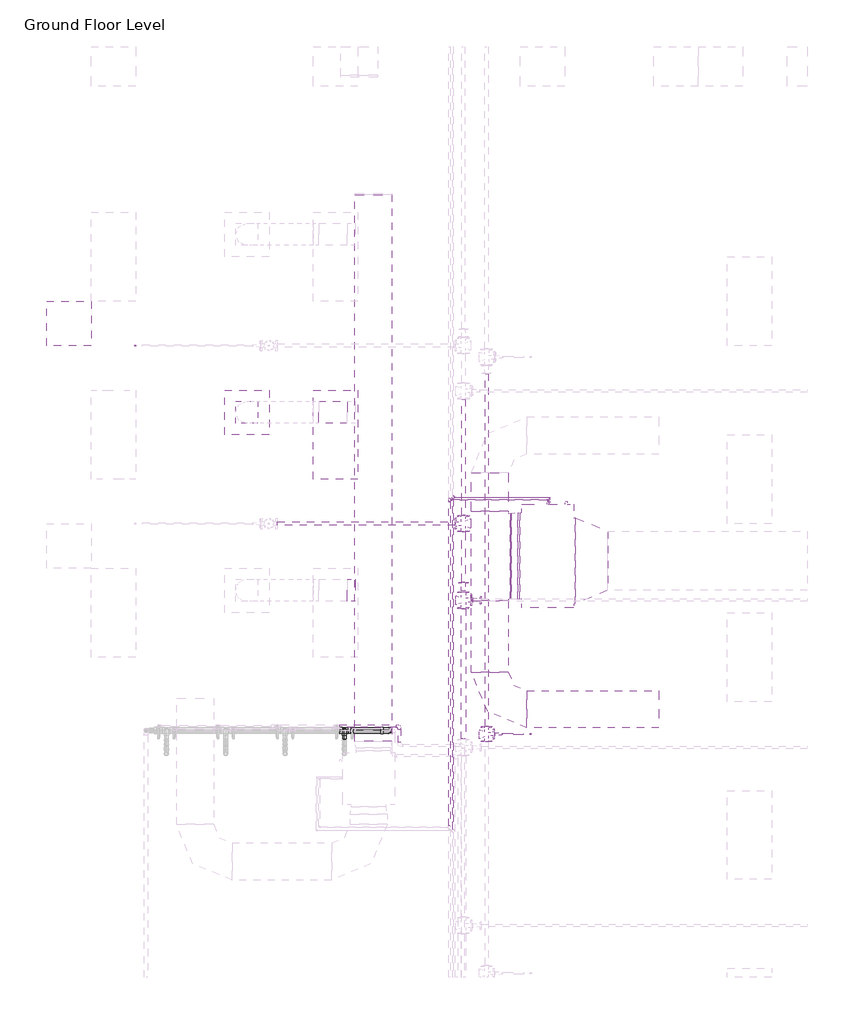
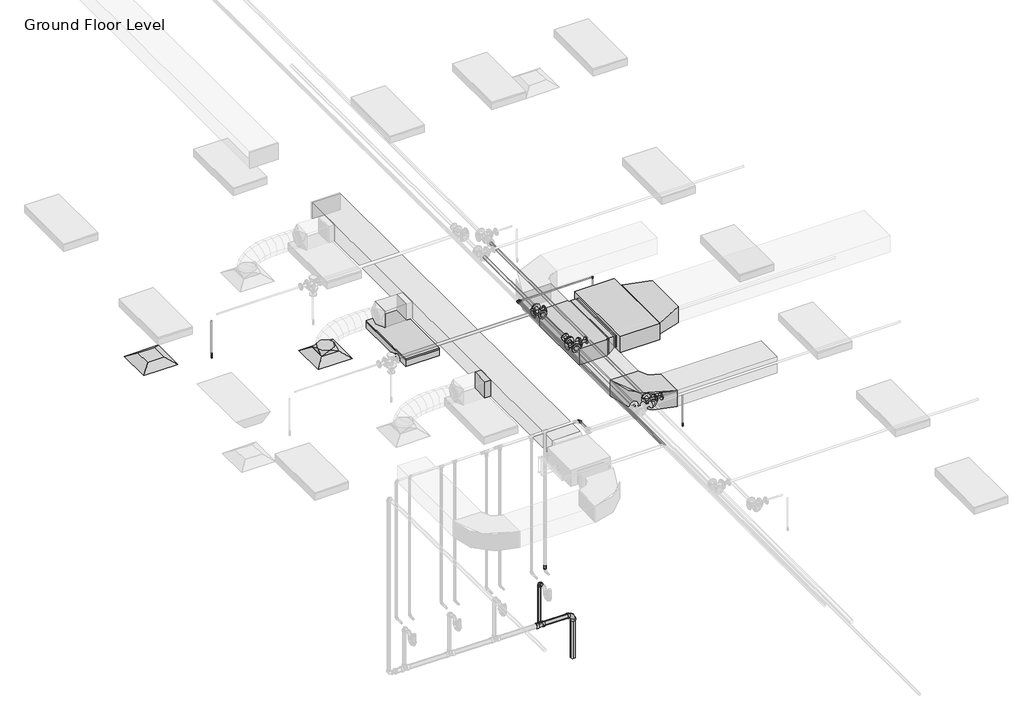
# One storey, part 25 of 74: 22 pipe segments, 21 pipe fittings, 7 duct fittings, 7 duct segments, 2 air terminals, 2 fire suppression terminals, 1 light fixture, 1 proxy.
"""IFC4 building model written with IfcOpenShell, lengths in millimetres."""

from ifc_helpers import new_model, si_unit, point, frame, frame_2d, origin, place, context, project, spatial, polyline, circle_curve, trimmed, segment, composite_curve, outline, extrude, transform, mapped, element, save
from components import m_return_diffuser_600_x_600_face_300_x_300_connection_ff221211, fcu_daikin_iu_5a1bd61d, m_rectangular_elbow_radius_1_w_abe20169, m_rectangular_takeoff_standard_cb0ccb98, m_rectangular_tee_standard_c717c13b, m_rectangular_transition_angle_45_degree_d2868699, m_rectangular_transition_angle_45_degree_3270bfc3, m_rectangular_transition_angle_45_degree_83bbb609, m_rectangular_to_round_transition_angle_45_degree_641efff0, m_sprinkler_dry_pendent_hosted_15_mm_dry_pendent_9bda8e11, m_sprinkler_pendent_15_mm_pendent_06fcbd8e, m_troffer_light_parabolic_rectangular1_0600x1200mm_4_lamp_86473d4a, m_bend_pvc_sch_40_dwv_standard_0eeb11e1, m_bend_pvc_sch_40_dwv_standard_1e7bdcc1, m_elbow_generic_standard_a088f956, m_elbow_generic_standard_2a704253, m_elbow_generic_standard_411ee063, m_elbow_generic_standard_a67d3ed8, m_reducer_flanged_cs_class_150_standard_cc2a7c1d, m_reducer_flanged_cs_class_150_standard_3ab32b2b, m_reducer_flanged_cs_class_150_standard_a7631c35, m_tee_generic_standard_5b2ed4d4, m_tee_generic_standard_5078887e, m_tee_reducing_sanitary_pvc_sch_40_dwv_standard_21d2848c, m_tee_round_base_flanged_cs_class_150_standard_dd767e04, m_tee_round_base_flanged_cs_class_150_standard_9c9133d0, m_tee_round_base_flanged_cs_class_150_standard_ab36f383, m_transition_generic_standard_5f8a9689, m_transition_generic_standard_bdcfe2c1, m_transition_generic_standard_44e35838, m_transition_generic_standard_570aa73b, standard_517a5a8d, standard_c7dcb452

model = new_model("IFC4")

# Units and contexts
model_context = context("Model", 3, world=origin())
ifc_project = project(units=[si_unit("LENGTHUNIT", "METRE", prefix="MILLI")], contexts=[model_context])

# Site, building, storey
site = spatial("IfcSite", under=ifc_project)
building = spatial("IfcBuilding", under=site)
storey = spatial("IfcBuildingStorey", under=building, Name="Ground Floor Level", Elevation=900.0)

# Air terminals
placement = place(None, origin())
m_return_diffuser_600_x_600_face_300_x_300_connection_shape = m_return_diffuser_600_x_600_face_300_x_300_connection_ff221211(model_context)
element("IfcAirTerminal", 1, ObjectType="M_Return Diffuser : 600 x 600 Face 300 x 300 Connection", at=placement, inside=storey, context=model_context, shape_type="MappedRepresentation", body=[
    mapped(m_return_diffuser_600_x_600_face_300_x_300_connection_shape, transform((362.7672395, -18364.7846466, 3650.0), x_axis=(1.0, 0.0, 0.0), y_axis=(0.0, 1.0, 0.0), z_axis=(0.0, 0.0, 1.0))),
])
element("IfcAirTerminal", 2, ObjectType="M_Supply Diffuser : 600 x 600 Face 300 x 300 Connection", at=placement, inside=storey, context=model_context, shape_type="MappedRepresentation", body=[
    mapped(m_return_diffuser_600_x_600_face_300_x_300_connection_shape, transform((2762.7672395, -19564.7846466, 3650.0), x_axis=(1.0, 0.0, 0.0), y_axis=(0.0, 1.0, 0.0), z_axis=(0.0, 0.0, 1.0))),
])

# Proxy
fcu_daikin_iu_shape = fcu_daikin_iu_5a1bd61d(model_context)
element("IfcBuildingElementProxy", 3, Name="FCU-DAIKIN IU : 9kW, 230V/50Hz/1Ph", ObjectType="FCU-DAIKIN IU : 9kW, 230V/50Hz/1Ph", at=placement, inside=storey, context=model_context, shape_type="MappedRepresentation", body=[
    mapped(fcu_daikin_iu_shape, transform((6820.4959647, -21503.0689179, 3984.0882279), x_axis=(0.0, 1.0, 0.0), y_axis=(-1.0, 0.0, 0.0), z_axis=(0.0, 0.0, 1.0))),
])

# Duct fittings
m_rectangular_elbow_radius_1_w_shape = m_rectangular_elbow_radius_1_w_abe20169(model_context)
element("IfcDuctFitting", 4, ObjectType="M_Rectangular Elbow - Radius : 1 W", at=placement, inside=storey, context=model_context, shape_type="MappedRepresentation", body=[
    mapped(m_rectangular_elbow_radius_1_w_shape, transform((6040.9897768, -23568.5689179, 4082.4543707), x_axis=(0.0, -1.0, 0.0), y_axis=(1.0, 0.0, 0.0), z_axis=(0.0, 0.0, 1.0))),
])
m_rectangular_takeoff_standard_shape = m_rectangular_takeoff_standard_cb0ccb98(model_context)
element("IfcDuctFitting", 5, ObjectType="M_Rectangular Takeoff : Standard", at=placement, inside=storey, context=model_context, shape_type="MappedRepresentation", body=[
    mapped(m_rectangular_takeoff_standard_shape, transform((4219.1581832, -21964.7846466, 4057.1519579), x_axis=(-1.0, 0.0, 0.0), y_axis=(0.0, 1.0, 0.0), z_axis=(0.0, 0.0, -1.0))),
])
m_rectangular_tee_standard_shape = m_rectangular_tee_standard_c717c13b(model_context)
element("IfcDuctFitting", 6, ObjectType="M_Rectangular Tee : Standard", at=placement, inside=storey, context=model_context, shape_type="MappedRepresentation", body=[
    mapped(m_rectangular_tee_standard_shape, transform((6040.9973279, -21503.0689179, 4082.4405262), x_axis=(0.0, -1.0, 0.0), y_axis=(-1.0, 0.0, 0.0), z_axis=(0.0, 0.0, -1.0))),
])
m_rectangular_transition_angle_45_degree_shape = m_rectangular_transition_angle_45_degree_d2868699(model_context)
element("IfcDuctFitting", 7, ObjectType="M_Rectangular Transition - Angle : 45 Degree", at=placement, inside=storey, context=model_context, shape_type="MappedRepresentation", body=[
    mapped(m_rectangular_transition_angle_45_degree_shape, transform((7195.8959647, -21566.5689179, 4150.0007279), x_axis=(1.0, 0.0, 0.0), y_axis=(0.0, 1.0, 0.0), z_axis=(0.0, 0.0, 1.0))),
])
m_rectangular_transition_angle_45_degree_2_shape = m_rectangular_transition_angle_45_degree_3270bfc3(model_context)
element("IfcDuctFitting", 8, ObjectType="M_Rectangular Transition - Angle : 45 Degree", at=placement, inside=storey, context=model_context, shape_type="MappedRepresentation", body=[
    mapped(m_rectangular_transition_angle_45_degree_2_shape, transform((6445.0959647, -21503.0689179, 4125.2882279), x_axis=(-1.0, 0.0, 0.0), y_axis=(0.0, -1.0, 0.0), z_axis=(0.0, 0.0, 1.0))),
])
m_rectangular_transition_angle_45_degree_3_shape = m_rectangular_transition_angle_45_degree_83bbb609(model_context)
element("IfcDuctFitting", 9, ObjectType="M_Rectangular Transition - Angle : 45 Degree", at=placement, inside=storey, context=model_context, shape_type="MappedRepresentation", body=[
    mapped(m_rectangular_transition_angle_45_degree_3_shape, transform((6416.9897764, -21503.0689179, 4125.4405264), x_axis=(-1.0, 0.0, 0.0), y_axis=(0.0, -1.0, 0.0), z_axis=(0.0, 0.0, 1.0))),
])
m_rectangular_to_round_transition_angle_45_degree_shape = m_rectangular_to_round_transition_angle_45_degree_641efff0(model_context)
element("IfcDuctFitting", 10, ObjectType="M_Rectangular to Round Transition - Angle : 45 Degree", at=placement, inside=storey, context=model_context, shape_type="MappedRepresentation", body=[
    mapped(m_rectangular_to_round_transition_angle_45_degree_shape, transform((2762.7672395, -19564.7846466, 3751.6), x_axis=(0.0, 0.0, 1.0), y_axis=(-1.0, 0.0, 0.0), z_axis=(0.0, -1.0, 0.0))),
])

# Duct segments
element("IfcDuctSegment", 11, ObjectType="Radius Elbows / Taps", at=placement, inside=storey, context=model_context, shape_type="SweptSolid", body=[
    extrude(outline(polyline([(0.0, -500.0), (0.0, 0.0), (7371.604175, 0.0), (7371.604175, -500.0), (0.0, -500.0)])), frame((4719.1581832, -16631.8629481, 3907.1429453), z_axis=(0.0, 1.6199957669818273e-06, 0.9999999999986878), x_axis=(0.0, -0.9999999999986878, 1.6199957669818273e-06)), (0.0, 0.0, 1.0), 300.0),
])
element("IfcDuctSegment", 12, ObjectType="Radius Elbows / Taps", at=placement, inside=storey, context=model_context, shape_type="SweptSolid", body=[
    extrude(outline(polyline([(6290.9897768, -20897.5689179), (5790.9897768, -20897.5689179), (5790.9897768, -20377.6206315), (6290.9897768, -20377.6206315), (6290.9897768, -20897.5689179)])), frame((0.0, 0.0, 3932.4543707), z_axis=(0.0, 0.0, 1.0), x_axis=(1.0, 0.0, 0.0)), (0.0, 0.0, 1.0), 300.0),
])
element("IfcDuctSegment", 13, ObjectType="Radius Elbows / Taps", at=placement, inside=storey, context=model_context, shape_type="SweptSolid", body=[
    extrude(outline(polyline([(5790.9897768, -22108.5689179), (6290.9897768, -22108.5689179), (6290.9897768, -23068.5689179), (5790.9897768, -23068.5689179), (5790.9897768, -22108.5689179)])), frame((0.0, 0.0, 3932.4543707), z_axis=(0.0, 0.0, 1.0), x_axis=(1.0, 0.0, 0.0)), (0.0, 0.0, 1.0), 300.0),
])
element("IfcDuctSegment", 14, ObjectType="Radius Elbows / Taps", at=placement, inside=storey, context=model_context, shape_type="SweptSolid", body=[
    extrude(outline(polyline([(6540.9897768, -23818.5689179), (6540.9897768, -23318.5689179), (8320.9897766, -23318.5689179), (8320.9897766, -23818.5689179), (6540.9897768, -23818.5689179)])), frame((0.0, 0.0, 3932.4543707), z_axis=(0.0, 0.0, 1.0), x_axis=(1.0, 0.0, 0.0)), (0.0, 0.0, 1.0), 300.0),
])
element("IfcDuctSegment", 15, ObjectType="Radius Elbows / Taps", at=placement, inside=storey, context=model_context, shape_type="SweptSolid", body=[
    extrude(outline(polyline([(6315.9897764, -22083.5689179), (6315.9897764, -20922.5689179), (6330.9897764, -20922.5689179), (6330.9897764, -22083.5689179), (6315.9897764, -22083.5689179)])), frame((0.0, 0.0, 3932.4405264), z_axis=(0.0, 0.0, 1.0), x_axis=(1.0, 0.0, 0.0)), (0.0, 0.0, 1.0), 300.0),
])
element("IfcDuctSegment", 16, ObjectType="Radius Elbows / Taps", at=placement, inside=storey, context=model_context, shape_type="SweptSolid", body=[
    extrude(outline(polyline([(6444.798299, -20922.0689179), (6444.798299, -22084.0689179), (6416.9897764, -22084.0689179), (6416.9897764, -20922.0689179), (6444.798299, -20922.0689179)])), frame((0.0, 0.0, 4018.4405264), z_axis=(0.0, 0.0, 1.0), x_axis=(1.0, 0.0, 0.0)), (0.0, 0.0, 1.0), 214.0),
])
element("IfcDuctSegment", 17, ObjectType="Radius Elbows / Taps", at=placement, inside=storey, context=model_context, shape_type="SweptSolid", body=[
    extrude(outline(polyline([(4117.5581832, -19414.7846466), (4117.5581832, -19714.7846466), (3732.9552689, -19714.7846466), (3732.9552689, -19414.7846466), (4117.5581832, -19414.7846466)])), frame((0.0, 0.0, 3907.1479019), z_axis=(0.0, 0.0, 1.0), x_axis=(1.0, 0.0, 0.0)), (0.0, 0.0, 1.0), 300.0),
])

# Fire suppression terminals
m_sprinkler_dry_pendent_hosted_15_mm_dry_pendent_shape = m_sprinkler_dry_pendent_hosted_15_mm_dry_pendent_9bda8e11(model_context)
element("IfcFireSuppressionTerminal", 18, ObjectType="M_Sprinkler - Dry - Pendent - Hosted : 15 mm Dry Pendent", at=placement, inside=storey, context=model_context, shape_type="MappedRepresentation", body=[
    mapped(m_sprinkler_dry_pendent_hosted_15_mm_dry_pendent_shape, transform((1262.7672395, -18664.7846466, 3650.0), x_axis=(1.0, 0.0, 0.0), y_axis=(0.0, -1.0, 0.0), z_axis=(0.0, 0.0, -1.0))),
])
m_sprinkler_pendent_15_mm_pendent_shape = m_sprinkler_pendent_15_mm_pendent_06fcbd8e(model_context)
element("IfcFireSuppressionTerminal", 19, ObjectType="M_Sprinkler - Pendent : 15 mm Pendent", at=placement, inside=storey, context=model_context, shape_type="MappedRepresentation", body=[
    mapped(m_sprinkler_pendent_15_mm_pendent_shape, transform((6592.5481019, -23903.6779349, 3650.0), x_axis=(1.0, 0.0, 0.0), y_axis=(0.0, 1.0, 0.0), z_axis=(0.0, 0.0, 1.0))),
])

# Light fixture
m_troffer_light_parabolic_rectangular1_0600x1200mm_4_lamp_shape = m_troffer_light_parabolic_rectangular1_0600x1200mm_4_lamp_86473d4a(model_context)
element("IfcLightFixture", 20, ObjectType="M_Troffer Light - Parabolic Rectangular1 : 0600x1200mm(4 Lamp) - 277V 2", at=placement, inside=storey, context=model_context, shape_type="MappedRepresentation", body=[
    mapped(m_troffer_light_parabolic_rectangular1_0600x1200mm_4_lamp_shape, transform((3903.3013074, -19846.081145, 3650.0), x_axis=(0.0, 1.0, 0.0), y_axis=(-1.0, 0.0, 0.0), z_axis=(0.0, 0.0, 1.0))),
])

# Pipe fittings
m_bend_pvc_sch_40_dwv_standard_shape = m_bend_pvc_sch_40_dwv_standard_0eeb11e1(model_context)
element("IfcPipeFitting", 21, ObjectType="M_Bend - PVC - Sch 40 - DWV : Standard", at=placement, inside=storey, context=model_context, shape_type="MappedRepresentation", body=[
    mapped(m_bend_pvc_sch_40_dwv_standard_shape, transform((4671.3267974, -23854.2948449, 706.9937306), x_axis=(0.9999500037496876, 0.0, -0.009999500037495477), y_axis=(-0.009999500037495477, 0.0, -0.9999500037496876), z_axis=(0.0, 1.0, 0.0))),
])
m_bend_pvc_sch_40_dwv_standard_2_shape = m_bend_pvc_sch_40_dwv_standard_1e7bdcc1(model_context)
element("IfcPipeFitting", 22, ObjectType="M_Bend - PVC - Sch 40 - DWV : Standard", at=placement, inside=storey, context=model_context, shape_type="MappedRepresentation", body=[
    mapped(m_bend_pvc_sch_40_dwv_standard_2_shape, transform((4079.14976, -23854.2948449, 1508.2594199), x_axis=(0.0, 0.9999500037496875, -0.00999950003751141), y_axis=(0.0, -0.00999950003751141, -0.9999500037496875), z_axis=(-1.0, 0.0, 0.0))),
])
m_elbow_generic_standard_shape = m_elbow_generic_standard_a088f956(model_context)
element("IfcPipeFitting", 23, ObjectType="M_Elbow - Generic : Standard", at=placement, inside=storey, context=model_context, shape_type="MappedRepresentation", body=[
    mapped(m_elbow_generic_standard_shape, transform((6820.4959647, -20745.3977393, 4390.0), x_axis=(1.0, 0.0, 0.0), y_axis=(0.0, 0.0, -1.0), z_axis=(0.0, 1.0, 0.0))),
])
m_elbow_generic_standard_2_shape = m_elbow_generic_standard_2a704253(model_context)
element("IfcPipeFitting", 24, ObjectType="M_Elbow - Generic : Standard", at=placement, inside=storey, context=model_context, shape_type="MappedRepresentation", body=[
    mapped(m_elbow_generic_standard_2_shape, transform((6845.4959647, -20711.8462992, 4377.5), x_axis=(1.0, 0.0, 0.0), y_axis=(0.0, 0.0, -1.0), z_axis=(0.0, 1.0, 0.0))),
])
m_elbow_generic_standard_3_shape = m_elbow_generic_standard_411ee063(model_context)
element("IfcPipeFitting", 25, ObjectType="M_Elbow - Generic : Standard", at=placement, inside=storey, context=model_context, shape_type="MappedRepresentation", body=[
    mapped(m_elbow_generic_standard_3_shape, transform((6820.4959647, -20745.3896748, 4084.1050098), x_axis=(0.0, 0.0, -1.0), y_axis=(0.0, -1.0, 0.0), z_axis=(-1.0, 0.0, 0.0))),
])
m_elbow_generic_standard_4_shape = m_elbow_generic_standard_a67d3ed8(model_context)
element("IfcPipeFitting", 26, ObjectType="M_Elbow - Generic : Standard", at=placement, inside=storey, context=model_context, shape_type="MappedRepresentation", body=[
    mapped(m_elbow_generic_standard_4_shape, transform((6845.4959647, -20711.8400273, 4134.9034747), x_axis=(0.0, 0.0, -1.0), y_axis=(0.0, -1.0, 0.0), z_axis=(-1.0, 0.0, 0.0))),
])
m_reducer_flanged_cs_class_150_standard_shape = m_reducer_flanged_cs_class_150_standard_cc2a7c1d(model_context)
element("IfcPipeFitting", 27, ObjectType="M_Reducer - Flanged - CS - Class 150 : Standard", at=placement, inside=storey, context=model_context, shape_type="MappedRepresentation", body=[
    mapped(m_reducer_flanged_cs_class_150_standard_shape, transform((6103.1564057, -23903.6779349, 4290.0), x_axis=(1.0, 0.0, 0.0), y_axis=(0.0, 0.0, -1.0), z_axis=(0.0, 1.0, 0.0))),
])
m_reducer_flanged_cs_class_150_standard_2_shape = m_reducer_flanged_cs_class_150_standard_3ab32b2b(model_context)
element("IfcPipeFitting", 28, ObjectType="M_Reducer - Flanged - CS - Class 150 : Standard", at=placement, inside=storey, context=model_context, shape_type="MappedRepresentation", body=[
    mapped(m_reducer_flanged_cs_class_150_standard_2_shape, transform((5684.6174894, -21984.0287346, 4347.5), x_axis=(0.0, 1.0, 0.0), y_axis=(-1.0, 0.0, 0.0), z_axis=(0.0, 0.0, 1.0))),
])
m_reducer_flanged_cs_class_150_standard_3_shape = m_reducer_flanged_cs_class_150_standard_a7631c35(model_context)
element("IfcPipeFitting", 29, ObjectType="M_Reducer - Flanged - CS - Class 150 : Standard", at=placement, inside=storey, context=model_context, shape_type="MappedRepresentation", body=[
    mapped(m_reducer_flanged_cs_class_150_standard_3_shape, transform((5798.6174894, -22098.0287346, 4347.5), x_axis=(1.0, 0.0, 0.0), y_axis=(0.0, 0.0, 1.0), z_axis=(0.0, -1.0, 0.0))),
])
m_tee_generic_standard_shape = m_tee_generic_standard_5b2ed4d4(model_context)
element("IfcPipeFitting", 30, ObjectType="M_Tee - Generic : Standard", at=placement, inside=storey, context=model_context, shape_type="MappedRepresentation", body=[
    mapped(m_tee_generic_standard_shape, transform((5543.9904113, -20711.8462992, 4377.5), x_axis=(0.0, -1.0, 0.0), y_axis=(-1.0, 0.0, 0.0), z_axis=(0.0, 0.0, -1.0))),
])
m_tee_generic_standard_2_shape = m_tee_generic_standard_5078887e(model_context)
element("IfcPipeFitting", 31, ObjectType="M_Tee - Generic : Standard", at=placement, inside=storey, context=model_context, shape_type="MappedRepresentation", body=[
    mapped(m_tee_generic_standard_2_shape, transform((5497.8951827, -20745.3977393, 4390.0), x_axis=(0.0, -1.0, 0.0), y_axis=(-1.0, 0.0, 0.0), z_axis=(0.0, 0.0, -1.0))),
])
m_tee_reducing_sanitary_pvc_sch_40_dwv_standard_shape = m_tee_reducing_sanitary_pvc_sch_40_dwv_standard_21d2848c(model_context)
element("IfcPipeFitting", 32, ObjectType="M_Tee Reducing Sanitary - PVC - Sch 40 - DWV : Standard", at=placement, inside=storey, context=model_context, shape_type="MappedRepresentation", body=[
    mapped(m_tee_reducing_sanitary_pvc_sch_40_dwv_standard_shape, transform((4079.3782372, -23854.2948449, 713.0632162), x_axis=(-0.9999500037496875, 0.0, 0.00999950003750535), y_axis=(-0.00999950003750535, 0.0, -0.9999500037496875), z_axis=(0.0, -1.0, 0.0))),
])
m_tee_round_base_flanged_cs_class_150_standard_shape = m_tee_round_base_flanged_cs_class_150_standard_dd767e04(model_context)
element("IfcPipeFitting", 33, ObjectType="M_Tee Round Base - Flanged - CS - Class 150 : Standard", at=placement, inside=storey, context=model_context, shape_type="MappedRepresentation", body=[
    mapped(m_tee_round_base_flanged_cs_class_150_standard_shape, transform((5684.6174894, -22098.0287346, 4347.5), x_axis=(0.0, -1.0, 0.0), y_axis=(-1.0, 0.0, 0.0), z_axis=(0.0, 0.0, -1.0))),
])
m_tee_round_base_flanged_cs_class_150_standard_2_shape = m_tee_round_base_flanged_cs_class_150_standard_9c9133d0(model_context)
element("IfcPipeFitting", 34, ObjectType="M_Tee Round Base - Flanged - CS - Class 150 : Standard", at=placement, inside=storey, context=model_context, shape_type="MappedRepresentation", body=[
    mapped(m_tee_round_base_flanged_cs_class_150_standard_2_shape, transform((5997.057812, -23903.6779349, 4290.0), x_axis=(0.0, 1.0, 0.0), y_axis=(-1.0, 0.0, 0.0), z_axis=(0.0, 0.0, 1.0))),
])
m_tee_round_base_flanged_cs_class_150_standard_3_shape = m_tee_round_base_flanged_cs_class_150_standard_ab36f383(model_context)
element("IfcPipeFitting", 35, ObjectType="M_Tee Round Base - Flanged - CS - Class 150 : Standard", at=placement, inside=storey, context=model_context, shape_type="MappedRepresentation", body=[
    mapped(m_tee_round_base_flanged_cs_class_150_standard_3_shape, transform((5684.6174894, -21064.7846466, 4347.5), x_axis=(0.0, -1.0, 0.0), y_axis=(1.0, 0.0, 0.0), z_axis=(0.0, 0.0, 1.0))),
])
m_transition_generic_standard_shape = m_transition_generic_standard_5f8a9689(model_context)
element("IfcPipeFitting", 36, ObjectType="M_Transition - Generic : Standard", at=placement, inside=storey, context=model_context, shape_type="MappedRepresentation", body=[
    mapped(m_transition_generic_standard_shape, transform((5497.8951827, -20721.5852393, 4390.0), x_axis=(0.0, 1.0, 0.0), y_axis=(-1.0, 0.0, 0.0), z_axis=(0.0, 0.0, 1.0))),
])
m_transition_generic_standard_2_shape = m_transition_generic_standard_bdcfe2c1(model_context)
element("IfcPipeFitting", 37, ObjectType="M_Transition - Generic : Standard", at=placement, inside=storey, context=model_context, shape_type="MappedRepresentation", body=[
    mapped(m_transition_generic_standard_2_shape, transform((5564.6279113, -20711.8462992, 4377.5), x_axis=(1.0, 0.0, 0.0), y_axis=(0.0, 1.0, 0.0), z_axis=(0.0, 0.0, 1.0))),
])
m_transition_generic_standard_3_shape = m_transition_generic_standard_44e35838(model_context)
element("IfcPipeFitting", 38, ObjectType="M_Transition - Generic : Standard", at=placement, inside=storey, context=model_context, shape_type="MappedRepresentation", body=[
    mapped(m_transition_generic_standard_3_shape, transform((5521.7076827, -20745.3977393, 4390.0), x_axis=(1.0, 0.0, 0.0), y_axis=(0.0, 1.0, 0.0), z_axis=(0.0, 0.0, 1.0))),
])
m_transition_generic_standard_4_shape = m_transition_generic_standard_570aa73b(model_context)
element("IfcPipeFitting", 39, ObjectType="M_Transition - Generic : Standard", at=placement, inside=storey, context=model_context, shape_type="MappedRepresentation", body=[
    mapped(m_transition_generic_standard_4_shape, transform((5543.9904113, -20691.2087992, 4377.5), x_axis=(0.0, 1.0, 0.0), y_axis=(-1.0, 0.0, 0.0), z_axis=(0.0, 0.0, 1.0))),
])
standard_shape = standard_517a5a8d(model_context)
element("IfcPipeFitting", 40, ObjectType="M_Elbow - CPVC - Sch 40 : Standard", at=placement, inside=storey, context=model_context, shape_type="MappedRepresentation", body=[
    mapped(standard_shape, transform((4820.5575802, -23794.921633, 4250.0), x_axis=(0.0, 1.0, 0.0), y_axis=(-1.0, 0.0, 0.0), z_axis=(0.0, 0.0, 1.0))),
])
standard_2_shape = standard_c7dcb452(model_context)
element("IfcPipeFitting", 41, ObjectType="M_Coupling Reducing - CPVC - Sch 40 : Standard", at=placement, inside=storey, context=model_context, shape_type="MappedRepresentation", body=[
    mapped(standard_2_shape, transform((4183.0647206, -23844.7846466, 1725.32505), x_axis=(0.0, 0.0, 1.0), y_axis=(0.0, 1.0, 0.0), z_axis=(-1.0, 0.0, 0.0))),
])

# Pipe segments
element("IfcPipeSegment", 42, ObjectType="CPVC", at=placement, inside=storey, context=model_context, shape_type="SweptSolid", body=[
    extrude(outline(composite_curve([segment(trimmed(circle_curve(frame_2d((4250.0, 4820.5575802)), 16.7005), [point((4250.0, 4837.2580802))], [point((4266.7005, 4820.5575802))], False, "CARTESIAN"), True, "CONTINUOUS"), segment(trimmed(circle_curve(frame_2d((4250.0, 4820.5575802)), 16.7005), [point((4266.7005, 4820.5575802))], [point((4250.0, 4803.8570802))], False, "CARTESIAN"), True, "CONTINUOUS"), segment(trimmed(circle_curve(frame_2d((4250.0, 4820.5575802)), 16.7005), [point((4250.0, 4803.8570802))], [point((4233.2995, 4820.5575802))], False, "CARTESIAN"), True, "CONTINUOUS"), segment(trimmed(circle_curve(frame_2d((4250.0, 4820.5575802)), 16.7005), [point((4233.2995, 4820.5575802))], [point((4250.0, 4837.2580802))], False, "CARTESIAN"), True, "CONTINUOUS")], self_intersect=False)), frame((0.0, -24011.659083, 0.0), z_axis=(0.0, 1.0, 0.0), x_axis=(0.0, 0.0, 1.0)), (0.0, 0.0, 1.0), 173.4749),
])
element("IfcPipeSegment", 43, ObjectType="CPVC", at=placement, inside=storey, context=model_context, shape_type="SweptSolid", body=[
    extrude(outline(composite_curve([segment(trimmed(circle_curve(frame_2d((-23794.921633, 4250.0)), 16.7005), [point((-23811.622133, 4250.0))], [point((-23794.921633, 4266.7005))], False, "CARTESIAN"), True, "CONTINUOUS"), segment(trimmed(circle_curve(frame_2d((-23794.921633, 4250.0)), 16.7005), [point((-23794.921633, 4266.7005))], [point((-23778.221133, 4250.0))], False, "CARTESIAN"), True, "CONTINUOUS"), segment(trimmed(circle_curve(frame_2d((-23794.921633, 4250.0)), 16.7005), [point((-23778.221133, 4250.0))], [point((-23794.921633, 4233.2995))], False, "CARTESIAN"), True, "CONTINUOUS"), segment(trimmed(circle_curve(frame_2d((-23794.921633, 4250.0)), 16.7005), [point((-23794.921633, 4233.2995))], [point((-23811.622133, 4250.0))], False, "CARTESIAN"), True, "CONTINUOUS")], self_intersect=False)), frame((4014.1350794, 0.0, 0.0), z_axis=(1.0, 0.0, 0.0), x_axis=(0.0, 1.0, 0.0)), (0.0, 0.0, 1.0), 763.1599508),
])
element("IfcPipeSegment", 44, ObjectType="Copper", at=placement, inside=storey, context=model_context, shape_type="SweptSolid", body=[
    extrude(outline(composite_curve([segment(trimmed(circle_curve(frame_2d((-20711.8462992, 4377.5)), 3.35), [point((-20715.1962992, 4377.5))], [point((-20711.8462992, 4380.85))], False, "CARTESIAN"), True, "CONTINUOUS"), segment(trimmed(circle_curve(frame_2d((-20711.8462992, 4377.5)), 3.35), [point((-20711.8462992, 4380.85))], [point((-20708.4962992, 4377.5))], False, "CARTESIAN"), True, "CONTINUOUS"), segment(trimmed(circle_curve(frame_2d((-20711.8462992, 4377.5)), 3.35), [point((-20708.4962992, 4377.5))], [point((-20711.8462992, 4374.15))], False, "CARTESIAN"), True, "CONTINUOUS"), segment(trimmed(circle_curve(frame_2d((-20711.8462992, 4377.5)), 3.35), [point((-20711.8462992, 4374.15))], [point((-20715.1962992, 4377.5))], False, "CARTESIAN"), True, "CONTINUOUS")], self_intersect=False)), frame((5568.5966613, 0.0, 0.0), z_axis=(1.0, 0.0, 0.0), x_axis=(0.0, 1.0, 0.0)), (0.0, 0.0, 1.0), 1265.7618034),
])
element("IfcPipeSegment", 45, ObjectType="Copper", at=placement, inside=storey, context=model_context, shape_type="SweptSolid", body=[
    extrude(outline(composite_curve([segment(trimmed(circle_curve(frame_2d((-20745.3977393, 4390.0)), 6.5), [point((-20751.8977393, 4390.0))], [point((-20745.3977393, 4396.5))], False, "CARTESIAN"), True, "CONTINUOUS"), segment(trimmed(circle_curve(frame_2d((-20745.3977393, 4390.0)), 6.5), [point((-20745.3977393, 4396.5))], [point((-20738.8977393, 4390.0))], False, "CARTESIAN"), True, "CONTINUOUS"), segment(trimmed(circle_curve(frame_2d((-20745.3977393, 4390.0)), 6.5), [point((-20738.8977393, 4390.0))], [point((-20745.3977393, 4383.5))], False, "CARTESIAN"), True, "CONTINUOUS"), segment(trimmed(circle_curve(frame_2d((-20745.3977393, 4390.0)), 6.5), [point((-20745.3977393, 4383.5))], [point((-20751.8977393, 4390.0))], False, "CARTESIAN"), True, "CONTINUOUS")], self_intersect=False)), frame((5527.2639327, 0.0, 0.0), z_axis=(1.0, 0.0, 0.0), x_axis=(0.0, 1.0, 0.0)), (0.0, 0.0, 1.0), 1278.9445321),
])
element("IfcPipeSegment", 46, ObjectType="Copper", at=placement, inside=storey, context=model_context, shape_type="SweptSolid", body=[
    extrude(outline(composite_curve([segment(trimmed(circle_curve(frame_2d((0.0, -6.5)), 6.5), [point((-6.5, -6.5))], [point((0.0, 0.0))], False, "CARTESIAN"), True, "CONTINUOUS"), segment(trimmed(circle_curve(frame_2d((0.0, -6.5)), 6.5), [point((0.0, 0.0))], [point((6.5, -6.5))], False, "CARTESIAN"), True, "CONTINUOUS"), segment(trimmed(circle_curve(frame_2d((0.0, -6.5)), 6.5), [point((6.5, -6.5))], [point((0.0, -13.0))], False, "CARTESIAN"), True, "CONTINUOUS"), segment(trimmed(circle_curve(frame_2d((0.0, -6.5)), 6.5), [point((0.0, -13.0))], [point((-6.5, -6.5))], False, "CARTESIAN"), True, "CONTINUOUS")], self_intersect=False)), frame((6820.4959647, -20764.9497842, 4077.5882561), z_axis=(0.0, 0.9999956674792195, 0.0029436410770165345), x_axis=(1.0, 0.0, 0.0)), (0.0, 0.0, 1.0), 5.2929673),
])
element("IfcPipeSegment", 47, ObjectType="Copper", at=placement, inside=storey, context=model_context, shape_type="SweptSolid", body=[
    extrude(outline(composite_curve([segment(trimmed(circle_curve(frame_2d((0.0, -3.35)), 3.35), [point((0.0, 0.0))], [point((3.35, -3.35))], False, "CARTESIAN"), True, "CONTINUOUS"), segment(trimmed(circle_curve(frame_2d((0.0, -3.35)), 3.35), [point((3.35, -3.35))], [point((0.0, -6.7))], False, "CARTESIAN"), True, "CONTINUOUS"), segment(trimmed(circle_curve(frame_2d((0.0, -3.35)), 3.35), [point((0.0, -6.7))], [point((-3.35, -3.35))], False, "CARTESIAN"), True, "CONTINUOUS"), segment(trimmed(circle_curve(frame_2d((0.0, -3.35)), 3.35), [point((-3.35, -3.35))], [point((0.0, 0.0))], False, "CARTESIAN"), True, "CONTINUOUS")], self_intersect=False)), frame((6842.1459647, -20764.9689179, 4134.8882279), z_axis=(0.0, 0.9999999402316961, 0.00034574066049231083), x_axis=(0.0, 0.00034574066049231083, -0.9999999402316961)), (0.0, 0.0, 1.0), 41.9921215),
])
element("IfcPipeSegment", 48, ObjectType="Copper", at=placement, inside=storey, context=model_context, shape_type="SweptSolid", body=[
    extrude(outline(composite_curve([segment(trimmed(circle_curve(frame_2d((4377.5, 5543.9904113)), 6.5), [point((4377.5, 5550.4904113))], [point((4384.0, 5543.9904113))], False, "CARTESIAN"), True, "CONTINUOUS"), segment(trimmed(circle_curve(frame_2d((4377.5, 5543.9904113)), 6.5), [point((4384.0, 5543.9904113))], [point((4377.5, 5537.4904113))], False, "CARTESIAN"), True, "CONTINUOUS"), segment(trimmed(circle_curve(frame_2d((4377.5, 5543.9904113)), 6.5), [point((4377.5, 5537.4904113))], [point((4371.0, 5543.9904113))], False, "CARTESIAN"), True, "CONTINUOUS"), segment(trimmed(circle_curve(frame_2d((4377.5, 5543.9904113)), 6.5), [point((4371.0, 5543.9904113))], [point((4377.5, 5550.4904113))], False, "CARTESIAN"), True, "CONTINUOUS")], self_intersect=False)), frame((0.0, -25185.8524508, 0.0), z_axis=(0.0, 1.0, 0.0), x_axis=(0.0, 0.0, 1.0)), (0.0, 0.0, 1.0), 4453.3686516),
])
element("IfcPipeSegment", 49, ObjectType="Copper", at=placement, inside=storey, context=model_context, shape_type="SweptSolid", body=[
    extrude(outline(composite_curve([segment(trimmed(circle_curve(frame_2d((4390.0, 5497.8951827)), 9.75), [point((4390.0, 5507.6451827))], [point((4399.75, 5497.8951827))], False, "CARTESIAN"), True, "CONTINUOUS"), segment(trimmed(circle_curve(frame_2d((4390.0, 5497.8951827)), 9.75), [point((4399.75, 5497.8951827))], [point((4390.0, 5488.1451827))], False, "CARTESIAN"), True, "CONTINUOUS"), segment(trimmed(circle_curve(frame_2d((4390.0, 5497.8951827)), 9.75), [point((4390.0, 5488.1451827))], [point((4380.25, 5497.8951827))], False, "CARTESIAN"), True, "CONTINUOUS"), segment(trimmed(circle_curve(frame_2d((4390.0, 5497.8951827)), 9.75), [point((4380.25, 5497.8951827))], [point((4390.0, 5507.6451827))], False, "CARTESIAN"), True, "CONTINUOUS")], self_intersect=False)), frame((0.0, -25138.2771488, 0.0), z_axis=(0.0, 1.0, 0.0), x_axis=(0.0, 0.0, 1.0)), (0.0, 0.0, 1.0), 4369.0669095),
])
element("IfcPipeSegment", 50, ObjectType="Copper", at=placement, inside=storey, context=model_context, shape_type="SweptSolid", body=[
    extrude(outline(composite_curve([segment(trimmed(circle_curve(frame_2d((0.0, -6.5)), 6.5), [point((-6.5, -6.5))], [point((0.0, 0.0))], False, "CARTESIAN"), True, "CONTINUOUS"), segment(trimmed(circle_curve(frame_2d((0.0, -6.5)), 6.5), [point((0.0, 0.0))], [point((6.5, -6.5))], False, "CARTESIAN"), True, "CONTINUOUS"), segment(trimmed(circle_curve(frame_2d((0.0, -6.5)), 6.5), [point((6.5, -6.5))], [point((0.0, -13.0))], False, "CARTESIAN"), True, "CONTINUOUS"), segment(trimmed(circle_curve(frame_2d((0.0, -6.5)), 6.5), [point((0.0, -13.0))], [point((-6.5, -6.5))], False, "CARTESIAN"), True, "CONTINUOUS")], self_intersect=False)), frame((6820.4959647, -20751.8896748, 4098.3911194), z_axis=(0.0, -2.907973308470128e-05, 0.9999999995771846), x_axis=(-1.0, 0.0, 0.0)), (0.0, 0.0, 1.0), 277.3211917),
])
element("IfcPipeSegment", 51, ObjectType="Copper", at=placement, inside=storey, context=model_context, shape_type="SweptSolid", body=[
    extrude(outline(composite_curve([segment(trimmed(circle_curve(frame_2d((0.0, -3.35)), 3.35), [point((-3.35, -3.35))], [point((0.0, 0.0))], False, "CARTESIAN"), True, "CONTINUOUS"), segment(trimmed(circle_curve(frame_2d((0.0, -3.35)), 3.35), [point((0.0, 0.0))], [point((3.35, -3.35))], False, "CARTESIAN"), True, "CONTINUOUS"), segment(trimmed(circle_curve(frame_2d((0.0, -3.35)), 3.35), [point((3.35, -3.35))], [point((0.0, -6.7))], False, "CARTESIAN"), True, "CONTINUOUS"), segment(trimmed(circle_curve(frame_2d((0.0, -3.35)), 3.35), [point((0.0, -6.7))], [point((-3.35, -3.35))], False, "CARTESIAN"), True, "CONTINUOUS")], self_intersect=False)), frame((6845.4959647, -20715.1900273, 4146.0401509), z_axis=(0.0, -2.8466951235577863e-05, 0.9999999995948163), x_axis=(-1.0, 0.0, 0.0)), (0.0, 0.0, 1.0), 220.3222538),
])
element("IfcPipeSegment", 52, ObjectType="PVC - DWV", at=placement, inside=storey, context=model_context, shape_type="SweptSolid", body=[
    extrude(outline(composite_curve([segment(trimmed(circle_curve(frame_2d((0.0, -36.5125)), 36.5125), [point((0.0, -73.025))], [point((-36.5125001, -36.5125))], False, "CARTESIAN"), True, "CONTINUOUS"), segment(trimmed(circle_curve(frame_2d((0.0, -36.5125)), 36.5125), [point((-36.5125001, -36.5125))], [point((0.0, 0.0))], False, "CARTESIAN"), True, "CONTINUOUS"), segment(trimmed(circle_curve(frame_2d((0.0, -36.5125)), 36.5125), [point((0.0, 0.0))], [point((36.5125, -36.5125))], False, "CARTESIAN"), True, "CONTINUOUS"), segment(trimmed(circle_curve(frame_2d((0.0, -36.5125)), 36.5125), [point((36.5125, -36.5125))], [point((0.0, -73.025))], False, "CARTESIAN"), True, "CONTINUOUS")], self_intersect=False)), frame((4572.3191851, -23817.7823449, 708.1338068), z_axis=(-0.9999500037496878, 0.0, 0.009999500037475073), x_axis=(0.009999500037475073, 0.0, 0.9999500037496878)), (0.0, 0.0, 1.0), 413.9024756),
])
element("IfcPipeSegment", 53, ObjectType="PVC - DWV", at=placement, inside=storey, context=model_context, shape_type="SweptSolid", body=[
    extrude(outline(composite_curve([segment(trimmed(circle_curve(frame_2d((0.0, -24.13)), 24.13), [point((24.13, -24.13))], [point((0.0, -48.26))], False, "CARTESIAN"), True, "CONTINUOUS"), segment(trimmed(circle_curve(frame_2d((0.0, -24.13)), 24.13), [point((0.0, -48.26))], [point((-24.13, -24.13))], False, "CARTESIAN"), True, "CONTINUOUS"), segment(trimmed(circle_curve(frame_2d((0.0, -24.13)), 24.13), [point((-24.13, -24.13))], [point((0.0, 0.0))], False, "CARTESIAN"), True, "CONTINUOUS"), segment(trimmed(circle_curve(frame_2d((0.0, -24.13)), 24.13), [point((0.0, 0.0))], [point((24.13, -24.13))], False, "CARTESIAN"), True, "CONTINUOUS")], self_intersect=False)), frame((4079.14976, -23915.9502622, 1533.0071805), z_axis=(0.0, -0.9999500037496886, 0.009999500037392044), x_axis=(1.0, 0.0, 0.0)), (0.0, 0.0, 1.0), 60.2666156),
])
element("IfcPipeSegment", 54, ObjectType="PVC - DWV", at=placement, inside=storey, context=model_context, shape_type="SweptSolid", body=[
    extrude(outline(composite_curve([segment(trimmed(circle_curve(frame_2d((0.0, 24.13)), 24.13), [point((-24.13, 24.13))], [point((0.0, 48.26))], False, "CARTESIAN"), True, "CONTINUOUS"), segment(trimmed(circle_curve(frame_2d((0.0, 24.13)), 24.13), [point((0.0, 48.26))], [point((24.13, 24.13))], False, "CARTESIAN"), True, "CONTINUOUS"), segment(trimmed(circle_curve(frame_2d((0.0, 24.13)), 24.13), [point((24.13, 24.13))], [point((0.0, 0.0))], False, "CARTESIAN"), True, "CONTINUOUS"), segment(trimmed(circle_curve(frame_2d((0.0, 24.13)), 24.13), [point((0.0, 0.0))], [point((-24.13, 24.13))], False, "CARTESIAN"), True, "CONTINUOUS")], self_intersect=False)), frame((4079.3782372, -23878.4248449, 793.9106725), z_axis=(-4.3677210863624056e-05, 0.0, 0.9999999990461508), x_axis=(0.9999999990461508, 0.0, 4.3677210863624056e-05)), (0.0, 0.0, 1.0), 652.448948),
])
element("IfcPipeSegment", 55, ObjectType="PVC - DWV", at=placement, inside=storey, context=model_context, shape_type="SweptSolid", body=[
    extrude(outline(composite_curve([segment(trimmed(circle_curve(frame_2d((0.0, -36.5125)), 36.5125), [point((-36.5125, -36.5125))], [point((0.0, 0.0))], False, "CARTESIAN"), True, "CONTINUOUS"), segment(trimmed(circle_curve(frame_2d((0.0, -36.5125)), 36.5125), [point((0.0, 0.0))], [point((36.5125, -36.5125))], False, "CARTESIAN"), True, "CONTINUOUS"), segment(trimmed(circle_curve(frame_2d((0.0, -36.5125)), 36.5125), [point((36.5125, -36.5125))], [point((0.0, -73.025))], False, "CARTESIAN"), True, "CONTINUOUS"), segment(trimmed(circle_curve(frame_2d((0.0, -36.5125)), 36.5125), [point((0.0, -73.025))], [point((-36.5125, -36.5125))], False, "CARTESIAN"), True, "CONTINUOUS")], self_intersect=False)), frame((4671.2998001, -23890.8073449, -100.0), z_axis=(3.81328750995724e-05, 0.0, 0.999999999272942), x_axis=(-0.999999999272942, 0.0, 3.81328750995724e-05)), (0.0, 0.0, 1.0), 707.9796686),
])
element("IfcPipeSegment", 56, ObjectType="Steel flanged", at=placement, inside=storey, context=model_context, shape_type="SweptSolid", body=[
    extrude(outline(composite_curve([segment(trimmed(circle_curve(frame_2d((6592.5481019, -23903.6779349)), 10.668), [point((6581.8801019, -23903.6779349))], [point((6592.5481019, -23893.0099349))], False, "CARTESIAN"), True, "CONTINUOUS"), segment(trimmed(circle_curve(frame_2d((6592.5481019, -23903.6779349)), 10.668), [point((6592.5481019, -23893.0099349))], [point((6603.2161019, -23903.6779349))], False, "CARTESIAN"), True, "CONTINUOUS"), segment(trimmed(circle_curve(frame_2d((6592.5481019, -23903.6779349)), 10.668), [point((6603.2161019, -23903.6779349))], [point((6592.5481019, -23914.3459349))], False, "CARTESIAN"), True, "CONTINUOUS"), segment(trimmed(circle_curve(frame_2d((6592.5481019, -23903.6779349)), 10.668), [point((6592.5481019, -23914.3459349))], [point((6581.8801019, -23903.6779349))], False, "CARTESIAN"), True, "CONTINUOUS")], self_intersect=False)), frame((0.0, 0.0, 3650.0), z_axis=(0.0, 0.0, 1.0), x_axis=(1.0, 0.0, 0.0)), (0.0, 0.0, 1.0), 546.9914062),
])
element("IfcPipeSegment", 57, ObjectType="Steel flanged", at=placement, inside=storey, context=model_context, shape_type="SweptSolid", body=[
    extrude(outline(composite_curve([segment(trimmed(circle_curve(frame_2d((-23903.6779349, 4290.0)), 10.668), [point((-23893.0099349, 4290.0))], [point((-23903.6779349, 4279.332))], False, "CARTESIAN"), True, "CONTINUOUS"), segment(trimmed(circle_curve(frame_2d((-23903.6779349, 4290.0)), 10.668), [point((-23903.6779349, 4279.332))], [point((-23914.3459349, 4290.0))], False, "CARTESIAN"), True, "CONTINUOUS"), segment(trimmed(circle_curve(frame_2d((-23903.6779349, 4290.0)), 10.668), [point((-23914.3459349, 4290.0))], [point((-23903.6779349, 4300.668))], False, "CARTESIAN"), True, "CONTINUOUS"), segment(trimmed(circle_curve(frame_2d((-23903.6779349, 4290.0)), 10.668), [point((-23903.6779349, 4300.668))], [point((-23893.0099349, 4290.0))], False, "CARTESIAN"), True, "CONTINUOUS")], self_intersect=False)), frame((6217.1564057, 0.0, 0.0), z_axis=(1.0, 0.0, 0.0), x_axis=(0.0, 1.0, 0.0)), (0.0, 0.0, 1.0), 282.3831025),
])
element("IfcPipeSegment", 58, ObjectType="Steel flanged", at=placement, inside=storey, context=model_context, shape_type="SweptSolid", body=[
    extrude(outline(composite_curve([segment(trimmed(circle_curve(frame_2d((4290.0, 5997.057812)), 21.082), [point((4290.0, 5975.975812))], [point((4268.918, 5997.057812))], False, "CARTESIAN"), True, "CONTINUOUS"), segment(trimmed(circle_curve(frame_2d((4290.0, 5997.057812)), 21.082), [point((4268.918, 5997.057812))], [point((4290.0, 6018.139812))], False, "CARTESIAN"), True, "CONTINUOUS"), segment(trimmed(circle_curve(frame_2d((4290.0, 5997.057812)), 21.082), [point((4290.0, 6018.139812))], [point((4311.082, 5997.057812))], False, "CARTESIAN"), True, "CONTINUOUS"), segment(trimmed(circle_curve(frame_2d((4290.0, 5997.057812)), 21.082), [point((4311.082, 5997.057812))], [point((4290.0, 5975.975812))], False, "CARTESIAN"), True, "CONTINUOUS")], self_intersect=False)), frame((0.0, -23797.5793411, 0.0), z_axis=(0.0, 1.0, 0.0), x_axis=(0.0, 0.0, 1.0)), (0.0, 0.0, 1.0), 4752.4508334),
])
element("IfcPipeSegment", 59, ObjectType="Steel flanged", at=placement, inside=storey, context=model_context, shape_type="SweptSolid", body=[
    extrude(outline(composite_curve([segment(trimmed(circle_curve(frame_2d((4347.5, 5684.6174894)), 30.1625), [point((4347.5, 5714.7799894))], [point((4377.6625, 5684.6174894))], False, "CARTESIAN"), True, "CONTINUOUS"), segment(trimmed(circle_curve(frame_2d((4347.5, 5684.6174894)), 30.1625), [point((4377.6625, 5684.6174894))], [point((4347.5, 5654.4549894))], False, "CARTESIAN"), True, "CONTINUOUS"), segment(trimmed(circle_curve(frame_2d((4347.5, 5684.6174894)), 30.1625), [point((4347.5, 5654.4549894))], [point((4317.3375, 5684.6174894))], False, "CARTESIAN"), True, "CONTINUOUS"), segment(trimmed(circle_curve(frame_2d((4347.5, 5684.6174894)), 30.1625), [point((4317.3375, 5684.6174894))], [point((4347.5, 5714.7799894))], False, "CARTESIAN"), True, "CONTINUOUS")], self_intersect=False)), frame((0.0, -23969.6779349, 0.0), z_axis=(0.0, 1.0, 0.0), x_axis=(0.0, 0.0, 1.0)), (0.0, 0.0, 1.0), 1757.6492003),
])
element("IfcPipeSegment", 60, ObjectType="Steel flanged", at=placement, inside=storey, context=model_context, shape_type="SweptSolid", body=[
    extrude(outline(composite_curve([segment(trimmed(circle_curve(frame_2d((1262.7672395, -18664.7846466)), 10.668), [point((1252.0992395, -18664.7846466))], [point((1262.7672395, -18654.1166466))], False, "CARTESIAN"), True, "CONTINUOUS"), segment(trimmed(circle_curve(frame_2d((1262.7672395, -18664.7846466)), 10.668), [point((1262.7672395, -18654.1166466))], [point((1273.4352395, -18664.7846466))], False, "CARTESIAN"), True, "CONTINUOUS"), segment(trimmed(circle_curve(frame_2d((1262.7672395, -18664.7846466)), 10.668), [point((1273.4352395, -18664.7846466))], [point((1262.7672395, -18675.4526466))], False, "CARTESIAN"), True, "CONTINUOUS"), segment(trimmed(circle_curve(frame_2d((1262.7672395, -18664.7846466)), 10.668), [point((1262.7672395, -18675.4526466))], [point((1252.0992395, -18664.7846466))], False, "CARTESIAN"), True, "CONTINUOUS")], self_intersect=False)), frame((0.0, 0.0, 3650.0), z_axis=(0.0, 0.0, 1.0), x_axis=(1.0, 0.0, 0.0)), (0.0, 0.0, 1.0), 604.4914062),
])
element("IfcPipeSegment", 61, ObjectType="Steel flanged", at=placement, inside=storey, context=model_context, shape_type="SweptSolid", body=[
    extrude(outline(composite_curve([segment(trimmed(circle_curve(frame_2d((4347.5, 5684.6174894)), 24.13), [point((4347.5, 5708.7474894))], [point((4371.63, 5684.6174894))], False, "CARTESIAN"), True, "CONTINUOUS"), segment(trimmed(circle_curve(frame_2d((4347.5, 5684.6174894)), 24.13), [point((4371.63, 5684.6174894))], [point((4347.5, 5660.4874894))], False, "CARTESIAN"), True, "CONTINUOUS"), segment(trimmed(circle_curve(frame_2d((4347.5, 5684.6174894)), 24.13), [point((4347.5, 5660.4874894))], [point((4323.37, 5684.6174894))], False, "CARTESIAN"), True, "CONTINUOUS"), segment(trimmed(circle_curve(frame_2d((4347.5, 5684.6174894)), 24.13), [point((4323.37, 5684.6174894))], [point((4347.5, 5708.7474894))], False, "CARTESIAN"), True, "CONTINUOUS")], self_intersect=False)), frame((0.0, -20952.5260529, 0.0), z_axis=(0.0, 1.0, 0.0), x_axis=(0.0, 0.0, 1.0)), (0.0, 0.0, 1.0), 1564.3818468),
])
element("IfcPipeSegment", 62, ObjectType="Steel flanged", at=placement, inside=storey, context=model_context, shape_type="SweptSolid", body=[
    extrude(outline(composite_curve([segment(trimmed(circle_curve(frame_2d((4347.5, 5684.6174894)), 24.13), [point((4347.5, 5708.7474894))], [point((4371.63, 5684.6174894))], False, "CARTESIAN"), True, "CONTINUOUS"), segment(trimmed(circle_curve(frame_2d((4347.5, 5684.6174894)), 24.13), [point((4371.63, 5684.6174894))], [point((4347.5, 5660.4874894))], False, "CARTESIAN"), True, "CONTINUOUS"), segment(trimmed(circle_curve(frame_2d((4347.5, 5684.6174894)), 24.13), [point((4347.5, 5660.4874894))], [point((4323.37, 5684.6174894))], False, "CARTESIAN"), True, "CONTINUOUS"), segment(trimmed(circle_curve(frame_2d((4347.5, 5684.6174894)), 24.13), [point((4323.37, 5684.6174894))], [point((4347.5, 5708.7474894))], False, "CARTESIAN"), True, "CONTINUOUS")], self_intersect=False)), frame((0.0, -21857.0287346, 0.0), z_axis=(0.0, 1.0, 0.0), x_axis=(0.0, 0.0, 1.0)), (0.0, 0.0, 1.0), 679.9854942),
])
element("IfcPipeSegment", 63, ObjectType="Steel flanged", at=placement, inside=storey, context=model_context, shape_type="SweptSolid", body=[
    extrude(outline(composite_curve([segment(trimmed(circle_curve(frame_2d((-21064.7846466, 4347.5)), 24.13), [point((-21088.9146466, 4347.5))], [point((-21064.7846466, 4371.63))], False, "CARTESIAN"), True, "CONTINUOUS"), segment(trimmed(circle_curve(frame_2d((-21064.7846466, 4347.5)), 24.13), [point((-21064.7846466, 4371.63))], [point((-21040.6546466, 4347.5))], False, "CARTESIAN"), True, "CONTINUOUS"), segment(trimmed(circle_curve(frame_2d((-21064.7846466, 4347.5)), 24.13), [point((-21040.6546466, 4347.5))], [point((-21064.7846466, 4323.37))], False, "CARTESIAN"), True, "CONTINUOUS"), segment(trimmed(circle_curve(frame_2d((-21064.7846466, 4347.5)), 24.13), [point((-21064.7846466, 4323.37))], [point((-21088.9146466, 4347.5))], False, "CARTESIAN"), True, "CONTINUOUS")], self_intersect=False)), frame((3175.0258332, 0.0, 0.0), z_axis=(1.0, 0.0, 0.0), x_axis=(0.0, 1.0, 0.0)), (0.0, 0.0, 1.0), 2397.3330624),
])

save(model, "model.ifc")
